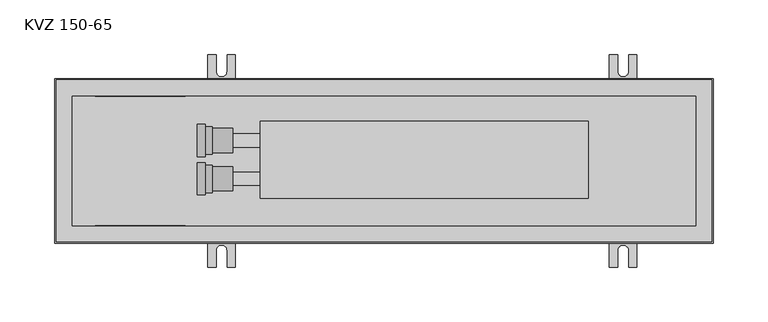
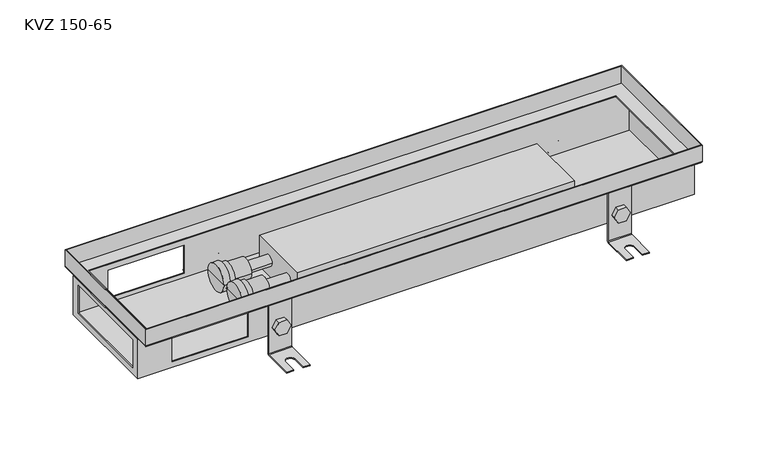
"""IFC4 building model written with IfcOpenShell, lengths in millimetres: proxy geometry, TECHNO_Конвектор встраиваемый_Power_KVZ_150_65-85-105 : KVZ 150-65."""

from ifc_helpers import new_model, si_unit, point, frame, frame_2d, origin, place, context, project, spatial, polyline, circle_curve, ellipse_curve, trimmed, segment, composite_curve, outline, extrude, faceted_brep, source, transform, mapped, element, save
from ifc_brep_helpers import plane_surface, cylinder_surface, revolved_surface, advanced_brep


def kvz_150_65_052aeace(model_context):
    return source(origin(), model_context, "Body", "SolidModel", [
        extrude(outline(composite_curve([segment(trimmed(circle_curve(frame_2d((-55.5, 518.0)), 7.5), [point((-55.5, 510.5))], [point((-55.5, 525.5))], False, "CARTESIAN"), True, "CONTINUOUS"), segment(trimmed(circle_curve(frame_2d((-55.5, 518.0)), 7.5), [point((-55.5, 525.5))], [point((-55.5, 510.5))], False, "CARTESIAN"), True, "CONTINUOUS")], self_intersect=False)), frame((0.0, 60.2, 0.0), z_axis=(0.0, 1.0, 0.0), x_axis=(0.0, 0.0, 1.0)), (0.0, 0.0, 1.0), 1.5),
        extrude(outline(polyline([(-55.5, 509.339746), (-63.0, 513.669873), (-63.0, 522.330127), (-55.5, 526.660254), (-48.0, 522.330127), (-48.0, 513.669873), (-55.5, 509.339746)])), frame((0.0, 62.9, 0.0), z_axis=(0.0, 1.0, 0.0), x_axis=(0.0, 0.0, 1.0)), (0.0, 0.0, 1.0), 5.1),
        advanced_brep(
        [(530.5, 62.9, -20.5), (530.5, 61.7, -20.5), (530.5, 61.7, -83.5), (530.5, 63.7, -85.5), (530.5, 96.7, -85.5), (530.5, 96.7, -84.3), (530.5, 63.7, -84.3), (530.5, 62.9, -83.5), (505.5, 62.9, -20.5), (505.5, 62.9, -83.5), (505.5, 63.7, -84.3), (505.5, 96.7, -84.3), (505.5, 96.7, -85.5), (505.5, 63.7, -85.5), (505.5, 61.7, -83.5), (505.5, 61.7, -20.5), (523.0, 96.7, -84.3), (523.0, 81.7, -84.3), (513.0, 81.7, -84.3), (513.0, 96.7, -84.3), (513.0, 96.7, -85.5), (523.0, 96.7, -85.5), (513.0, 81.7, -85.5), (523.0, 81.7, -85.5)],
        [
            (0, 1),
            (1, 2),
            (2, 3, circle_curve(frame((530.5, 63.7, -83.5), z_axis=(1.0, 0.0, 0.0), x_axis=(0.0, 1.0, 0.0)), 2.0)),
            (3, 4),
            (4, 5),
            (5, 6),
            (6, 7, circle_curve(frame((530.5, 63.7, -83.5), z_axis=(-1.0, 0.0, 0.0), x_axis=(0.0, 1.0, 0.0)), 0.8)),
            (7, 0),
            (8, 9),
            (9, 10, circle_curve(frame((505.5, 63.7, -83.5), z_axis=(1.0, 0.0, 0.0), x_axis=(0.0, 1.0, 0.0)), 0.8)),
            (10, 11),
            (11, 12),
            (12, 13),
            (13, 14, circle_curve(frame((505.5, 63.7, -83.5), z_axis=(-1.0, 0.0, 0.0), x_axis=(0.0, 1.0, 0.0)), 2.0)),
            (14, 15),
            (15, 8),
            (7, 9),
            (8, 0),
            (6, 10),
            (5, 16),
            (16, 17),
            (17, 18, circle_curve(frame((518.0, 81.7, -84.3), z_axis=(0.0, 0.0, -1.0), x_axis=(1.0, 0.0, 0.0)), 5.0)),
            (18, 19),
            (19, 11),
            (19, 20),
            (20, 12),
            (4, 21),
            (21, 16),
            (3, 13),
            (20, 22),
            (22, 23, circle_curve(frame((518.0, 81.7, -85.5), z_axis=(0.0, 0.0, 1.0), x_axis=(1.0, 0.0, 0.0)), 5.0)),
            (23, 21),
            (2, 14),
            (1, 15),
            (18, 22),
            (23, 17),
        ],
        [
            plane_surface(frame((530.5, 62.9, -20.5), z_axis=(1.0, 0.0, 0.0), x_axis=(0.0, 0.0, -1.0))),
            plane_surface(frame((505.5, 62.9, -20.5), z_axis=(-1.0, 0.0, 0.0), x_axis=(0.0, 0.0, 1.0))),
            plane_surface(frame((530.5, 62.9, -20.5), z_axis=(0.0, 1.0, 0.0), x_axis=(-1.0, 0.0, 0.0))),
            revolved_surface(polyline([(505.5, 64.5, -83.5), (530.5, 64.5, -83.5)]), (505.5, 63.7, -83.5), (-1.0, 0.0, 0.0)),
            plane_surface(frame((530.5, 63.7, -84.3), z_axis=(0.0, 0.0, 1.0), x_axis=(-1.0, 0.0, 0.0))),
            plane_surface(frame((530.5, 96.7, -84.3), z_axis=(0.0, 1.0, 0.0), x_axis=(-1.0, 0.0, 0.0))),
            plane_surface(frame((530.5, 96.7, -85.5), z_axis=(0.0, 0.0, -1.0), x_axis=(-1.0, 0.0, 0.0))),
            cylinder_surface(frame((505.5, 63.7, -83.5), z_axis=(1.0, 0.0, 0.0), x_axis=(0.0, 1.0, 0.0)), 2.0),
            plane_surface(frame((530.5, 61.7, -83.5), z_axis=(0.0, -1.0, 0.0), x_axis=(-1.0, 0.0, 0.0))),
            plane_surface(frame((530.5, 61.7, -20.5), z_axis=(0.0, 0.0, 1.0), x_axis=(-1.0, 0.0, 0.0))),
            plane_surface(frame((513.0, 81.7, -84.3), z_axis=(1.0, 0.0, 0.0), x_axis=(0.0, 0.0, -1.0))),
            plane_surface(frame((523.0, 96.7, -84.3), z_axis=(-1.0, 0.0, 0.0), x_axis=(0.0, 0.0, -1.0))),
            revolved_surface(polyline([(523.0, 81.7, -84.3), (523.0, 81.7, -85.5)]), (518.0, 81.7, -85.5), (0.0, 0.0, 1.0)),
        ],
        [
            (0, [[1, 2, 3, 4, 5, 6, 7, 8]]),
            (1, [[9, 10, 11, 12, 13, 14, 15, 16]]),
            (2, [[17, -9, 18, -8]]),
            (3, [[19, -10, -17, -7]]),
            (4, [[20, 21, 22, 23, 24, -11, -19, -6]]),
            (5, [[-24, 25, 26, -12]]),
            (5, [[27, 28, -20, -5]]),
            (6, [[29, -13, -26, 30, 31, 32, -27, -4]]),
            (7, [[33, -14, -29, -3]]),
            (8, [[34, -15, -33, -2]]),
            (9, [[-18, -16, -34, -1]]),
            (10, [[-30, -25, -23, 35]]),
            (11, [[-21, -28, -32, 36]]),
            (12, [[-22, -36, -31, -35]]),
        ],
    ),
        extrude(outline(composite_curve([segment(trimmed(circle_curve(frame_2d((-55.5, 518.0)), 7.5), [point((-55.5, 510.5))], [point((-55.5, 525.5))], False, "CARTESIAN"), True, "CONTINUOUS"), segment(trimmed(circle_curve(frame_2d((-55.5, 518.0)), 7.5), [point((-55.5, 525.5))], [point((-55.5, 510.5))], False, "CARTESIAN"), True, "CONTINUOUS")], self_intersect=False)), frame((0.0, -61.7, 0.0), z_axis=(0.0, 1.0, 0.0), x_axis=(0.0, 0.0, 1.0)), (0.0, 0.0, 1.0), 1.5),
        extrude(outline(polyline([(-55.5, 509.339746), (-63.0, 513.669873), (-63.0, 522.330127), (-55.5, 526.660254), (-48.0, 522.330127), (-48.0, 513.669873), (-55.5, 509.339746)])), frame((0.0, -68.0, 0.0), z_axis=(0.0, 1.0, 0.0), x_axis=(0.0, 0.0, 1.0)), (0.0, 0.0, 1.0), 5.1),
        advanced_brep(
        [(530.5, -62.9, -20.5), (530.5, -62.9, -83.5), (530.5, -63.7, -84.3), (530.5, -96.7, -84.3), (530.5, -96.7, -85.5), (530.5, -63.7, -85.5), (530.5, -61.7, -83.5), (530.5, -61.7, -20.5), (505.5, -62.9, -20.5), (505.5, -61.7, -20.5), (505.5, -61.7, -83.5), (505.5, -63.7, -85.5), (505.5, -96.7, -85.5), (505.5, -96.7, -84.3), (505.5, -63.7, -84.3), (505.5, -62.9, -83.5), (513.0, -96.7, -84.3), (513.0, -81.7, -84.3), (523.0, -81.7, -84.3), (523.0, -96.7, -84.3), (523.0, -96.7, -85.5), (513.0, -96.7, -85.5), (523.0, -81.7, -85.5), (513.0, -81.7, -85.5)],
        [
            (0, 1),
            (1, 2, circle_curve(frame((530.5, -63.7, -83.5), z_axis=(-1.0, 0.0, 0.0), x_axis=(0.0, -1.0, 0.0)), 0.8)),
            (2, 3),
            (3, 4),
            (4, 5),
            (5, 6, circle_curve(frame((530.5, -63.7, -83.5), z_axis=(1.0, 0.0, 0.0), x_axis=(0.0, -1.0, 0.0)), 2.0)),
            (6, 7),
            (7, 0),
            (8, 9),
            (9, 10),
            (10, 11, circle_curve(frame((505.5, -63.7, -83.5), z_axis=(-1.0, 0.0, 0.0), x_axis=(0.0, -1.0, 0.0)), 2.0)),
            (11, 12),
            (12, 13),
            (13, 14),
            (14, 15, circle_curve(frame((505.5, -63.7, -83.5), z_axis=(1.0, 0.0, 0.0), x_axis=(0.0, -1.0, 0.0)), 0.8)),
            (15, 8),
            (0, 8),
            (15, 1),
            (14, 2),
            (13, 16),
            (16, 17),
            (17, 18, circle_curve(frame((518.0, -81.7, -84.3), z_axis=(0.0, 0.0, -1.0), x_axis=(1.0, 0.0, 0.0)), 5.0)),
            (18, 19),
            (19, 3),
            (19, 20),
            (20, 4),
            (12, 21),
            (21, 16),
            (20, 22),
            (22, 23, circle_curve(frame((518.0, -81.7, -85.5), z_axis=(0.0, 0.0, 1.0), x_axis=(1.0, 0.0, 0.0)), 5.0)),
            (23, 21),
            (11, 5),
            (10, 6),
            (9, 7),
            (23, 17),
            (18, 22),
        ],
        [
            plane_surface(frame((530.5, -62.9, -20.5), z_axis=(1.0, 0.0, 0.0), x_axis=(0.0, 0.0, -1.0))),
            plane_surface(frame((505.5, -62.9, -20.5), z_axis=(-1.0, 0.0, 0.0), x_axis=(0.0, 0.0, 1.0))),
            plane_surface(frame((530.5, -62.9, -20.5), z_axis=(0.0, -1.0, 0.0), x_axis=(-1.0, 0.0, 0.0))),
            revolved_surface(polyline([(505.5, -64.5, -83.5), (530.5, -64.5, -83.5)]), (505.5, -63.7, -83.5), (-1.0, 0.0, 0.0)),
            plane_surface(frame((530.5, -63.7, -84.3), z_axis=(0.0, 0.0, 1.0), x_axis=(-1.0, 0.0, 0.0))),
            plane_surface(frame((530.5, -96.7, -84.3), z_axis=(0.0, -1.0, 0.0), x_axis=(-1.0, 0.0, 0.0))),
            plane_surface(frame((530.5, -96.7, -85.5), z_axis=(0.0, 0.0, -1.0), x_axis=(-1.0, 0.0, 0.0))),
            cylinder_surface(frame((505.5, -63.7, -83.5), z_axis=(1.0, 0.0, 0.0), x_axis=(0.0, -1.0, 0.0)), 2.0),
            plane_surface(frame((530.5, -61.7, -83.5), z_axis=(0.0, 1.0, 0.0), x_axis=(-1.0, 0.0, 0.0))),
            plane_surface(frame((530.5, -61.7, -20.5), z_axis=(0.0, 0.0, 1.0), x_axis=(-1.0, 0.0, 0.0))),
            plane_surface(frame((513.0, -81.7, -84.3), z_axis=(1.0, 0.0, 0.0), x_axis=(0.0, 0.0, -1.0))),
            plane_surface(frame((523.0, -96.7, -84.3), z_axis=(-1.0, 0.0, 0.0), x_axis=(0.0, 0.0, -1.0))),
            revolved_surface(polyline([(523.0, -81.7, -84.3), (523.0, -81.7, -85.5)]), (518.0, -81.7, -85.5), (0.0, 0.0, 1.0)),
        ],
        [
            (0, [[1, 2, 3, 4, 5, 6, 7, 8]]),
            (1, [[9, 10, 11, 12, 13, 14, 15, 16]]),
            (2, [[-1, 17, -16, 18]]),
            (3, [[-2, -18, -15, 19]]),
            (4, [[-3, -19, -14, 20, 21, 22, 23, 24]]),
            (5, [[-4, -24, 25, 26]]),
            (5, [[-13, 27, 28, -20]]),
            (6, [[-5, -26, 29, 30, 31, -27, -12, 32]]),
            (7, [[-6, -32, -11, 33]]),
            (8, [[-7, -33, -10, 34]]),
            (9, [[-8, -34, -9, -17]]),
            (10, [[35, -21, -28, -31]]),
            (11, [[36, -29, -25, -23]]),
            (12, [[-35, -30, -36, -22]]),
        ],
    ),
        extrude(outline(composite_curve([segment(trimmed(circle_curve(frame_2d((-55.5, 152.0)), 7.5), [point((-55.5, 144.5))], [point((-55.5, 159.5))], False, "CARTESIAN"), True, "CONTINUOUS"), segment(trimmed(circle_curve(frame_2d((-55.5, 152.0)), 7.5), [point((-55.5, 159.5))], [point((-55.5, 144.5))], False, "CARTESIAN"), True, "CONTINUOUS")], self_intersect=False)), frame((0.0, 60.2, 0.0), z_axis=(0.0, 1.0, 0.0), x_axis=(0.0, 0.0, 1.0)), (0.0, 0.0, 1.0), 1.5),
        extrude(outline(polyline([(-55.5, 143.339746), (-63.0, 147.669873), (-63.0, 156.330127), (-55.5, 160.660254), (-48.0, 156.330127), (-48.0, 147.669873), (-55.5, 143.339746)])), frame((0.0, 62.9, 0.0), z_axis=(0.0, 1.0, 0.0), x_axis=(0.0, 0.0, 1.0)), (0.0, 0.0, 1.0), 5.1),
        advanced_brep(
        [(164.5, 62.9, -20.5), (164.5, 61.7, -20.5), (164.5, 61.7, -83.5), (164.5, 63.7, -85.5), (164.5, 96.7, -85.5), (164.5, 96.7, -84.3), (164.5, 63.7, -84.3), (164.5, 62.9, -83.5), (139.5, 62.9, -20.5), (139.5, 62.9, -83.5), (139.5, 63.7, -84.3), (139.5, 96.7, -84.3), (139.5, 96.7, -85.5), (139.5, 63.7, -85.5), (139.5, 61.7, -83.5), (139.5, 61.7, -20.5), (157.0, 96.7, -84.3), (157.0, 81.7, -84.3), (147.0, 81.7, -84.3), (147.0, 96.7, -84.3), (147.0, 96.7, -85.5), (157.0, 96.7, -85.5), (147.0, 81.7, -85.5), (157.0, 81.7, -85.5)],
        [
            (0, 1),
            (1, 2),
            (2, 3, circle_curve(frame((164.5, 63.7, -83.5), z_axis=(1.0, 0.0, 0.0), x_axis=(0.0, 1.0, 0.0)), 2.0)),
            (3, 4),
            (4, 5),
            (5, 6),
            (6, 7, circle_curve(frame((164.5, 63.7, -83.5), z_axis=(-1.0, 0.0, 0.0), x_axis=(0.0, 1.0, 0.0)), 0.8)),
            (7, 0),
            (8, 9),
            (9, 10, circle_curve(frame((139.5, 63.7, -83.5), z_axis=(1.0, 0.0, 0.0), x_axis=(0.0, 1.0, 0.0)), 0.8)),
            (10, 11),
            (11, 12),
            (12, 13),
            (13, 14, circle_curve(frame((139.5, 63.7, -83.5), z_axis=(-1.0, 0.0, 0.0), x_axis=(0.0, 1.0, 0.0)), 2.0)),
            (14, 15),
            (15, 8),
            (7, 9),
            (8, 0),
            (6, 10),
            (5, 16),
            (16, 17),
            (17, 18, circle_curve(frame((152.0, 81.7, -84.3), z_axis=(0.0, 0.0, -1.0), x_axis=(1.0, 0.0, 0.0)), 5.0)),
            (18, 19),
            (19, 11),
            (19, 20),
            (20, 12),
            (4, 21),
            (21, 16),
            (3, 13),
            (20, 22),
            (22, 23, circle_curve(frame((152.0, 81.7, -85.5), z_axis=(0.0, 0.0, 1.0), x_axis=(1.0, 0.0, 0.0)), 5.0)),
            (23, 21),
            (2, 14),
            (1, 15),
            (18, 22),
            (23, 17),
        ],
        [
            plane_surface(frame((164.5, 62.9, -20.5), z_axis=(1.0, 0.0, 0.0), x_axis=(0.0, 0.0, -1.0))),
            plane_surface(frame((139.5, 62.9, -20.5), z_axis=(-1.0, 0.0, 0.0), x_axis=(0.0, 0.0, 1.0))),
            plane_surface(frame((164.5, 62.9, -20.5), z_axis=(0.0, 1.0, 0.0), x_axis=(-1.0, 0.0, 0.0))),
            revolved_surface(polyline([(139.5, 64.5, -83.5), (164.5, 64.5, -83.5)]), (139.5, 63.7, -83.5), (-1.0, 0.0, 0.0)),
            plane_surface(frame((164.5, 63.7, -84.3), z_axis=(0.0, 0.0, 1.0), x_axis=(-1.0, 0.0, 0.0))),
            plane_surface(frame((164.5, 96.7, -84.3), z_axis=(0.0, 1.0, 0.0), x_axis=(-1.0, 0.0, 0.0))),
            plane_surface(frame((164.5, 96.7, -85.5), z_axis=(0.0, 0.0, -1.0), x_axis=(-1.0, 0.0, 0.0))),
            cylinder_surface(frame((139.5, 63.7, -83.5), z_axis=(1.0, 0.0, 0.0), x_axis=(0.0, 1.0, 0.0)), 2.0),
            plane_surface(frame((164.5, 61.7, -83.5), z_axis=(0.0, -1.0, 0.0), x_axis=(-1.0, 0.0, 0.0))),
            plane_surface(frame((164.5, 61.7, -20.5), z_axis=(0.0, 0.0, 1.0), x_axis=(-1.0, 0.0, 0.0))),
            plane_surface(frame((147.0, 81.7, -84.3), z_axis=(1.0, 0.0, 0.0), x_axis=(0.0, 0.0, -1.0))),
            plane_surface(frame((157.0, 96.7, -84.3), z_axis=(-1.0, 0.0, 0.0), x_axis=(0.0, 0.0, -1.0))),
            revolved_surface(polyline([(157.0, 81.7, -84.3), (157.0, 81.7, -85.5)]), (152.0, 81.7, -85.5), (0.0, 0.0, 1.0)),
        ],
        [
            (0, [[1, 2, 3, 4, 5, 6, 7, 8]]),
            (1, [[9, 10, 11, 12, 13, 14, 15, 16]]),
            (2, [[17, -9, 18, -8]]),
            (3, [[19, -10, -17, -7]]),
            (4, [[20, 21, 22, 23, 24, -11, -19, -6]]),
            (5, [[-24, 25, 26, -12]]),
            (5, [[27, 28, -20, -5]]),
            (6, [[29, -13, -26, 30, 31, 32, -27, -4]]),
            (7, [[33, -14, -29, -3]]),
            (8, [[34, -15, -33, -2]]),
            (9, [[-18, -16, -34, -1]]),
            (10, [[-30, -25, -23, 35]]),
            (11, [[-21, -28, -32, 36]]),
            (12, [[-22, -36, -31, -35]]),
        ],
    ),
        extrude(outline(composite_curve([segment(trimmed(circle_curve(frame_2d((-55.5, 152.0)), 7.5), [point((-55.5, 144.5))], [point((-55.5, 159.5))], False, "CARTESIAN"), True, "CONTINUOUS"), segment(trimmed(circle_curve(frame_2d((-55.5, 152.0)), 7.5), [point((-55.5, 159.5))], [point((-55.5, 144.5))], False, "CARTESIAN"), True, "CONTINUOUS")], self_intersect=False)), frame((0.0, -61.7, 0.0), z_axis=(0.0, 1.0, 0.0), x_axis=(0.0, 0.0, 1.0)), (0.0, 0.0, 1.0), 1.5),
        extrude(outline(polyline([(-55.5, 143.339746), (-63.0, 147.669873), (-63.0, 156.330127), (-55.5, 160.660254), (-48.0, 156.330127), (-48.0, 147.669873), (-55.5, 143.339746)])), frame((0.0, -68.0, 0.0), z_axis=(0.0, 1.0, 0.0), x_axis=(0.0, 0.0, 1.0)), (0.0, 0.0, 1.0), 5.1),
        advanced_brep(
        [(164.5, -62.9, -20.5), (164.5, -62.9, -83.5), (164.5, -63.7, -84.3), (164.5, -96.7, -84.3), (164.5, -96.7, -85.5), (164.5, -63.7, -85.5), (164.5, -61.7, -83.5), (164.5, -61.7, -20.5), (139.5, -62.9, -20.5), (139.5, -61.7, -20.5), (139.5, -61.7, -83.5), (139.5, -63.7, -85.5), (139.5, -96.7, -85.5), (139.5, -96.7, -84.3), (139.5, -63.7, -84.3), (139.5, -62.9, -83.5), (147.0, -96.7, -84.3), (147.0, -81.7, -84.3), (157.0, -81.7, -84.3), (157.0, -96.7, -84.3), (157.0, -96.7, -85.5), (147.0, -96.7, -85.5), (157.0, -81.7, -85.5), (147.0, -81.7, -85.5)],
        [
            (0, 1),
            (1, 2, circle_curve(frame((164.5, -63.7, -83.5), z_axis=(-1.0, 0.0, 0.0), x_axis=(0.0, -1.0, 0.0)), 0.8)),
            (2, 3),
            (3, 4),
            (4, 5),
            (5, 6, circle_curve(frame((164.5, -63.7, -83.5), z_axis=(1.0, 0.0, 0.0), x_axis=(0.0, -1.0, 0.0)), 2.0)),
            (6, 7),
            (7, 0),
            (8, 9),
            (9, 10),
            (10, 11, circle_curve(frame((139.5, -63.7, -83.5), z_axis=(-1.0, 0.0, 0.0), x_axis=(0.0, -1.0, 0.0)), 2.0)),
            (11, 12),
            (12, 13),
            (13, 14),
            (14, 15, circle_curve(frame((139.5, -63.7, -83.5), z_axis=(1.0, 0.0, 0.0), x_axis=(0.0, -1.0, 0.0)), 0.8)),
            (15, 8),
            (0, 8),
            (15, 1),
            (14, 2),
            (13, 16),
            (16, 17),
            (17, 18, circle_curve(frame((152.0, -81.7, -84.3), z_axis=(0.0, 0.0, -1.0), x_axis=(1.0, 0.0, 0.0)), 5.0)),
            (18, 19),
            (19, 3),
            (19, 20),
            (20, 4),
            (12, 21),
            (21, 16),
            (20, 22),
            (22, 23, circle_curve(frame((152.0, -81.7, -85.5), z_axis=(0.0, 0.0, 1.0), x_axis=(1.0, 0.0, 0.0)), 5.0)),
            (23, 21),
            (11, 5),
            (10, 6),
            (9, 7),
            (23, 17),
            (18, 22),
        ],
        [
            plane_surface(frame((164.5, -62.9, -20.5), z_axis=(1.0, 0.0, 0.0), x_axis=(0.0, 0.0, -1.0))),
            plane_surface(frame((139.5, -62.9, -20.5), z_axis=(-1.0, 0.0, 0.0), x_axis=(0.0, 0.0, 1.0))),
            plane_surface(frame((164.5, -62.9, -20.5), z_axis=(0.0, -1.0, 0.0), x_axis=(-1.0, 0.0, 0.0))),
            revolved_surface(polyline([(139.5, -64.5, -83.5), (164.5, -64.5, -83.5)]), (139.5, -63.7, -83.5), (-1.0, 0.0, 0.0)),
            plane_surface(frame((164.5, -63.7, -84.3), z_axis=(0.0, 0.0, 1.0), x_axis=(-1.0, 0.0, 0.0))),
            plane_surface(frame((164.5, -96.7, -84.3), z_axis=(0.0, -1.0, 0.0), x_axis=(-1.0, 0.0, 0.0))),
            plane_surface(frame((164.5, -96.7, -85.5), z_axis=(0.0, 0.0, -1.0), x_axis=(-1.0, 0.0, 0.0))),
            cylinder_surface(frame((139.5, -63.7, -83.5), z_axis=(1.0, 0.0, 0.0), x_axis=(0.0, -1.0, 0.0)), 2.0),
            plane_surface(frame((164.5, -61.7, -83.5), z_axis=(0.0, 1.0, 0.0), x_axis=(-1.0, 0.0, 0.0))),
            plane_surface(frame((164.5, -61.7, -20.5), z_axis=(0.0, 0.0, 1.0), x_axis=(-1.0, 0.0, 0.0))),
            plane_surface(frame((147.0, -81.7, -84.3), z_axis=(1.0, 0.0, 0.0), x_axis=(0.0, 0.0, -1.0))),
            plane_surface(frame((157.0, -96.7, -84.3), z_axis=(-1.0, 0.0, 0.0), x_axis=(0.0, 0.0, -1.0))),
            revolved_surface(polyline([(157.0, -81.7, -84.3), (157.0, -81.7, -85.5)]), (152.0, -81.7, -85.5), (0.0, 0.0, 1.0)),
        ],
        [
            (0, [[1, 2, 3, 4, 5, 6, 7, 8]]),
            (1, [[9, 10, 11, 12, 13, 14, 15, 16]]),
            (2, [[-1, 17, -16, 18]]),
            (3, [[-2, -18, -15, 19]]),
            (4, [[-3, -19, -14, 20, 21, 22, 23, 24]]),
            (5, [[-4, -24, 25, 26]]),
            (5, [[-13, 27, 28, -20]]),
            (6, [[-5, -26, 29, 30, 31, -27, -12, 32]]),
            (7, [[-6, -32, -11, 33]]),
            (8, [[-7, -33, -10, 34]]),
            (9, [[-8, -34, -9, -17]]),
            (10, [[35, -21, -28, -31]]),
            (11, [[36, -29, -25, -23]]),
            (12, [[-35, -30, -36, -22]]),
        ],
    ),
        extrude(outline(composite_curve([segment(trimmed(circle_curve(frame_2d((-16.3, -43.3)), 6.0), [point((-22.3, -43.3))], [point((-10.3, -43.3))], False, "CARTESIAN"), True, "CONTINUOUS"), segment(trimmed(circle_curve(frame_2d((-16.3, -43.3)), 6.0), [point((-10.3, -43.3))], [point((-22.3, -43.3))], False, "CARTESIAN"), True, "CONTINUOUS")], self_intersect=False)), frame((162.0, 0.0, 0.0), z_axis=(1.0, 0.0, 0.0), x_axis=(0.0, 1.0, 0.0)), (0.0, 0.0, 1.0), 25.0),
        advanced_brep(
        [(162.0, 7.7, -43.3), (162.0, 29.7, -43.3), (162.0, 18.7, -43.3), (143.5, 7.7, -43.3), (143.5, 29.7, -43.3), (143.5, 6.2, -43.3), (143.5, 31.2, -43.3), (137.0, 6.2, -43.3), (137.0, 31.2, -43.3), (137.0, 4.0, -43.3), (137.0, 33.4, -43.3), (130.0, 4.0, -43.3), (130.0, 33.4, -43.3), (130.0, 18.7, -43.3)],
        [
            (0, 1, circle_curve(frame((162.0, 18.7, -43.3), z_axis=(1.0, 0.0, 0.0), x_axis=(0.0, 1.0, 0.0)), 11.0)),
            (1, 2),
            (2, 0),
            (1, 0, circle_curve(frame((162.0, 18.7, -43.3), z_axis=(1.0, 0.0, 0.0), x_axis=(0.0, 1.0, 0.0)), 11.0)),
            (3, 4, circle_curve(frame((143.5, 18.7, -43.3), z_axis=(1.0, 0.0, 0.0), x_axis=(0.0, 1.0, 0.0)), 11.0)),
            (4, 1),
            (0, 3),
            (4, 3, circle_curve(frame((143.5, 18.7, -43.3), z_axis=(1.0, 0.0, 0.0), x_axis=(0.0, 1.0, 0.0)), 11.0)),
            (5, 6, circle_curve(frame((143.5, 18.7, -43.3), z_axis=(1.0, 0.0, 0.0), x_axis=(0.0, 1.0, 0.0)), 12.5)),
            (6, 4),
            (3, 5),
            (6, 5, circle_curve(frame((143.5, 18.7, -43.3), z_axis=(1.0, 0.0, 0.0), x_axis=(0.0, 1.0, 0.0)), 12.5)),
            (7, 8, circle_curve(frame((137.0, 18.7, -43.3), z_axis=(1.0, 0.0, 0.0), x_axis=(0.0, 1.0, 0.0)), 12.5)),
            (8, 6),
            (5, 7),
            (8, 7, circle_curve(frame((137.0, 18.7, -43.3), z_axis=(1.0, 0.0, 0.0), x_axis=(0.0, 1.0, 0.0)), 12.5)),
            (9, 10, circle_curve(frame((137.0, 18.7, -43.3), z_axis=(1.0, 0.0, 0.0), x_axis=(0.0, 1.0, 0.0)), 14.7)),
            (10, 8),
            (7, 9),
            (10, 9, circle_curve(frame((137.0, 18.7, -43.3), z_axis=(1.0, 0.0, 0.0), x_axis=(0.0, 1.0, 0.0)), 14.7)),
            (11, 12, circle_curve(frame((130.0, 18.7, -43.3), z_axis=(1.0, 0.0, 0.0), x_axis=(0.0, 1.0, 0.0)), 14.7)),
            (12, 10),
            (9, 11),
            (12, 11, circle_curve(frame((130.0, 18.7, -43.3), z_axis=(1.0, 0.0, 0.0), x_axis=(0.0, 1.0, 0.0)), 14.7)),
            (13, 12),
            (11, 13),
        ],
        [
            plane_surface(frame((162.0, 18.7, -43.3), z_axis=(1.0, 0.0, 0.0), x_axis=(0.0, 1.0, 0.0))),
            cylinder_surface(frame((120.0, 18.7, -43.3), z_axis=(-1.0, 0.0, 0.0), x_axis=(0.0, 1.0, 0.0)), 11.0),
            plane_surface(frame((143.5, 18.7, -43.3), z_axis=(1.0, 0.0, 0.0), x_axis=(0.0, 1.0, 0.0))),
            cylinder_surface(frame((120.0, 18.7, -43.3), z_axis=(-1.0, 0.0, 0.0), x_axis=(0.0, 1.0, 0.0)), 12.5),
            plane_surface(frame((137.0, 18.7, -43.3), z_axis=(1.0, 0.0, 0.0), x_axis=(0.0, 1.0, 0.0))),
            cylinder_surface(frame((120.0, 18.7, -43.3), z_axis=(-1.0, 0.0, 0.0), x_axis=(0.0, 1.0, 0.0)), 14.7),
            plane_surface(frame((130.0, 18.7, -43.3), z_axis=(-1.0, 0.0, 0.0), x_axis=(0.0, 1.0, 0.0))),
        ],
        [
            (0, [[1, 2, 3]]),
            (0, [[4, -3, -2]]),
            (1, [[5, 6, -1, 7]]),
            (1, [[8, -7, -4, -6]]),
            (2, [[9, 10, -5, 11]]),
            (2, [[12, -11, -8, -10]]),
            (3, [[13, 14, -9, 15]]),
            (3, [[16, -15, -12, -14]]),
            (4, [[17, 18, -13, 19]]),
            (4, [[20, -19, -16, -18]]),
            (5, [[21, 22, -17, 23]]),
            (5, [[24, -23, -20, -22]]),
            (6, [[25, -21, 26]]),
            (6, [[-26, -24, -25]]),
        ],
    ),
        advanced_brep(
        [(162.0, -27.3, -43.3), (162.0, -5.3, -43.3), (162.0, -16.3, -43.3), (143.5, -27.3, -43.3), (143.5, -5.3, -43.3), (143.5, -28.8, -43.3), (143.5, -3.8, -43.3), (137.0, -28.8, -43.3), (137.0, -3.8, -43.3), (137.0, -31.0, -43.3), (137.0, -1.6, -43.3), (130.0, -31.0, -43.3), (130.0, -1.6, -43.3), (130.0, -16.3, -43.3)],
        [
            (0, 1, circle_curve(frame((162.0, -16.3, -43.3), z_axis=(1.0, 0.0, 0.0), x_axis=(0.0, 1.0, 0.0)), 11.0)),
            (1, 2),
            (2, 0),
            (1, 0, circle_curve(frame((162.0, -16.3, -43.3), z_axis=(1.0, 0.0, 0.0), x_axis=(0.0, 1.0, 0.0)), 11.0)),
            (3, 4, circle_curve(frame((143.5, -16.3, -43.3), z_axis=(1.0, 0.0, 0.0), x_axis=(0.0, 1.0, 0.0)), 11.0)),
            (4, 1),
            (0, 3),
            (4, 3, circle_curve(frame((143.5, -16.3, -43.3), z_axis=(1.0, 0.0, 0.0), x_axis=(0.0, 1.0, 0.0)), 11.0)),
            (5, 6, circle_curve(frame((143.5, -16.3, -43.3), z_axis=(1.0, 0.0, 0.0), x_axis=(0.0, 1.0, 0.0)), 12.5)),
            (6, 4),
            (3, 5),
            (6, 5, circle_curve(frame((143.5, -16.3, -43.3), z_axis=(1.0, 0.0, 0.0), x_axis=(0.0, 1.0, 0.0)), 12.5)),
            (7, 8, circle_curve(frame((137.0, -16.3, -43.3), z_axis=(1.0, 0.0, 0.0), x_axis=(0.0, 1.0, 0.0)), 12.5)),
            (8, 6),
            (5, 7),
            (8, 7, circle_curve(frame((137.0, -16.3, -43.3), z_axis=(1.0, 0.0, 0.0), x_axis=(0.0, 1.0, 0.0)), 12.5)),
            (9, 10, circle_curve(frame((137.0, -16.3, -43.3), z_axis=(1.0, 0.0, 0.0), x_axis=(0.0, 1.0, 0.0)), 14.7)),
            (10, 8),
            (7, 9),
            (10, 9, circle_curve(frame((137.0, -16.3, -43.3), z_axis=(1.0, 0.0, 0.0), x_axis=(0.0, 1.0, 0.0)), 14.7)),
            (11, 12, circle_curve(frame((130.0, -16.3, -43.3), z_axis=(1.0, 0.0, 0.0), x_axis=(0.0, 1.0, 0.0)), 14.7)),
            (12, 10),
            (9, 11),
            (12, 11, circle_curve(frame((130.0, -16.3, -43.3), z_axis=(1.0, 0.0, 0.0), x_axis=(0.0, 1.0, 0.0)), 14.7)),
            (13, 12),
            (11, 13),
        ],
        [
            plane_surface(frame((162.0, -16.3, -43.3), z_axis=(1.0, 0.0, 0.0), x_axis=(0.0, 1.0, 0.0))),
            cylinder_surface(frame((120.0, -16.3, -43.3), z_axis=(-1.0, 0.0, 0.0), x_axis=(0.0, 1.0, 0.0)), 11.0),
            plane_surface(frame((143.5, -16.3, -43.3), z_axis=(1.0, 0.0, 0.0), x_axis=(0.0, 1.0, 0.0))),
            cylinder_surface(frame((120.0, -16.3, -43.3), z_axis=(-1.0, 0.0, 0.0), x_axis=(0.0, 1.0, 0.0)), 12.5),
            plane_surface(frame((137.0, -16.3, -43.3), z_axis=(1.0, 0.0, 0.0), x_axis=(0.0, 1.0, 0.0))),
            cylinder_surface(frame((120.0, -16.3, -43.3), z_axis=(-1.0, 0.0, 0.0), x_axis=(0.0, 1.0, 0.0)), 14.7),
            plane_surface(frame((130.0, -16.3, -43.3), z_axis=(-1.0, 0.0, 0.0), x_axis=(0.0, 1.0, 0.0))),
        ],
        [
            (0, [[1, 2, 3]]),
            (0, [[4, -3, -2]]),
            (1, [[5, 6, -1, 7]]),
            (1, [[8, -7, -4, -6]]),
            (2, [[9, 10, -5, 11]]),
            (2, [[12, -11, -8, -10]]),
            (3, [[13, 14, -9, 15]]),
            (3, [[16, -15, -12, -14]]),
            (4, [[17, 18, -13, 19]]),
            (4, [[20, -19, -16, -18]]),
            (5, [[21, 22, -17, 23]]),
            (5, [[24, -23, -20, -22]]),
            (6, [[25, -21, 26]]),
            (6, [[-26, -24, -25]]),
        ],
    ),
        extrude(outline(composite_curve([segment(trimmed(circle_curve(frame_2d((18.7, -43.3)), 6.0), [point((12.7, -43.3))], [point((24.7, -43.3))], False, "CARTESIAN"), True, "CONTINUOUS"), segment(trimmed(circle_curve(frame_2d((18.7, -43.3)), 6.0), [point((24.7, -43.3))], [point((12.7, -43.3))], False, "CARTESIAN"), True, "CONTINUOUS")], self_intersect=False)), frame((162.0, 0.0, 0.0), z_axis=(1.0, 0.0, 0.0), x_axis=(0.0, 1.0, 0.0)), (0.0, 0.0, 1.0), 25.0),
        extrude(outline(polyline([(486.0, 36.2), (486.0, -33.8), (187.0, -33.8), (187.0, 36.2), (486.0, 36.2)])), frame((0.0, 0.0, -60.8), z_axis=(0.0, 0.0, 1.0), x_axis=(1.0, 0.0, 0.0)), (0.0, 0.0, 1.0), 35.0),
        faceted_brep([(598.8, -59.0, -63.8), (598.8, 59.0, -63.8), (1.2, 59.0, -63.8), (1.2, -59.0, -63.8), (0.0, -60.2, -65.0), (0.0, 60.2, -65.0), (600.0, 60.2, -65.0), (600.0, -60.2, -65.0), (600.0, -60.2, -20.5), (0.0, -60.2, -20.5), (37.0, -60.2, -26.8), (119.0, -60.2, -26.8), (119.0, -60.2, -58.8), (37.0, -60.2, -58.8), (600.0, 60.2, -20.5), (0.0, 60.2, -20.5), (119.0, 60.2, -26.8), (37.0, 60.2, -26.8), (37.0, 60.2, -58.8), (119.0, 60.2, -58.8), (0.0, 51.0, -58.0), (0.0, 51.0, -26.0), (0.0, -51.0, -26.0), (0.0, -51.0, -58.0), (598.8, -59.0, -20.5), (598.8, 59.0, -20.5), (1.2, -59.0, -20.5), (119.0, -59.0, -26.8), (37.0, -59.0, -26.8), (37.0, -59.0, -58.8), (119.0, -59.0, -58.8), (1.2, 59.0, -20.5), (1.2, 51.0, -26.0), (1.2, 51.0, -58.0), (1.2, -51.0, -58.0), (1.2, -51.0, -26.0), (37.0, 59.0, -26.8), (119.0, 59.0, -26.8), (119.0, 59.0, -58.8), (37.0, 59.0, -58.8)], [[[0, 1, 2, 3]], [[4, 5, 6, 7]], [[4, 7, 8, 9], [10, 11, 12, 13]], [[7, 6, 14, 8]], [[6, 5, 15, 14], [16, 17, 18, 19]], [[5, 4, 9, 15], [20, 21, 22, 23]], [[24, 25, 1, 0]], [[26, 24, 0, 3], [27, 28, 29, 30]], [[31, 26, 3, 2], [32, 33, 34, 35]], [[25, 31, 2, 1], [36, 37, 38, 39]], [[8, 14, 15, 9], [25, 24, 26, 31]], [[27, 11, 10, 28]], [[16, 37, 36, 17]], [[28, 10, 13, 29]], [[17, 36, 39, 18]], [[29, 13, 12, 30]], [[18, 39, 38, 19]], [[11, 27, 30, 12]], [[37, 16, 19, 38]], [[20, 33, 32, 21]], [[21, 32, 35, 22]], [[22, 35, 34, 23]], [[33, 20, 23, 34]]]),
        advanced_brep(
        [(584.0, 59.0, -19.3), (584.0, 59.0, -20.5), (584.0, -59.0, -20.5), (584.0, -59.0, -19.3), (598.8, 73.8, 0.0), (598.8, 73.8, -19.3), (598.8, -73.8, -19.3), (598.8, -73.8, 0.0), (600.0, 75.0, -18.5), (600.0, 75.0, 0.0), (600.0, -75.0, 0.0), (600.0, -75.0, -18.5), (16.0, -59.0, -20.5), (16.0, -59.0, -19.3), (1.2, -73.8, -19.3), (1.2, -73.8, 0.0), (0.0, -75.0, 0.0), (0.0, -75.0, -18.5), (16.0, 59.0, -20.5), (16.0, 59.0, -19.3), (1.2, 73.8, -19.3), (1.2, 73.8, 0.0), (0.0, 75.0, 0.0), (0.0, 75.0, -18.5), (598.0, -73.0, -20.5), (2.0, -73.0, -20.5), (2.0, 73.0, -20.5), (598.0, 73.0, -20.5)],
        [
            (0, 1),
            (1, 2),
            (2, 3),
            (3, 0),
            (4, 5),
            (5, 6),
            (6, 7),
            (7, 4),
            (8, 9),
            (9, 10),
            (10, 11),
            (11, 8),
            (2, 12),
            (12, 13),
            (13, 3),
            (6, 14),
            (14, 15),
            (15, 7),
            (10, 16),
            (16, 17),
            (17, 11),
            (12, 18),
            (18, 19),
            (19, 13),
            (14, 20),
            (20, 21),
            (21, 15),
            (16, 22),
            (22, 23),
            (23, 17),
            (24, 25),
            (25, 26),
            (26, 27),
            (27, 24),
            (1, 18),
            (0, 19),
            (5, 20),
            (4, 21),
            (9, 22),
            (8, 23),
            (27, 8, ellipse_curve(frame((598.0, 73.0, -18.5), z_axis=(0.7071067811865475, -0.7071067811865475, 0.0), x_axis=(0.7071067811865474, 0.7071067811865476, 0.0)), 2.8284271, 2.0)),
            (11, 24, ellipse_curve(frame((598.0, -73.0, -18.5), z_axis=(0.7071067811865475, 0.7071067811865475, 0.0), x_axis=(-0.7071067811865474, 0.7071067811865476, 0.0)), 2.8284271, 2.0)),
            (17, 25, ellipse_curve(frame((2.0, -73.0, -18.5), z_axis=(0.7071067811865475, -0.7071067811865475, 0.0), x_axis=(0.7071067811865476, 0.7071067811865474, 0.0)), 2.8284271, 2.0)),
            (23, 26, ellipse_curve(frame((2.0, 73.0, -18.5), z_axis=(-0.7071067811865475, -0.7071067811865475, 0.0), x_axis=(0.7071067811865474, -0.7071067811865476, 0.0)), 2.8284271, 2.0)),
        ],
        [
            plane_surface(frame((584.0, 59.0, -20.5), z_axis=(-1.0, 0.0, 0.0), x_axis=(0.0, -1.0, 0.0))),
            plane_surface(frame((598.8, 73.8, -19.3), z_axis=(-1.0, 0.0, 0.0), x_axis=(0.0, -1.0, 0.0))),
            plane_surface(frame((600.0, 75.0, 0.0), z_axis=(1.0, 0.0, 0.0), x_axis=(0.0, -1.0, 0.0))),
            plane_surface(frame((584.0, -59.0, -20.5), z_axis=(0.0, 1.0, 0.0), x_axis=(-1.0, 0.0, 0.0))),
            plane_surface(frame((598.8, -73.8, -19.3), z_axis=(0.0, 1.0, 0.0), x_axis=(-1.0, 0.0, 0.0))),
            plane_surface(frame((600.0, -75.0, 0.0), z_axis=(0.0, -1.0, 0.0), x_axis=(-1.0, 0.0, 0.0))),
            plane_surface(frame((16.0, -59.0, -20.5), z_axis=(1.0, 0.0, 0.0), x_axis=(0.0, 1.0, 0.0))),
            plane_surface(frame((1.2, -73.8, -19.3), z_axis=(1.0, 0.0, 0.0), x_axis=(0.0, 1.0, 0.0))),
            plane_surface(frame((0.0, -75.0, 0.0), z_axis=(-1.0, 0.0, 0.0), x_axis=(0.0, 1.0, 0.0))),
            plane_surface(frame((2.0, 73.0, -20.5), z_axis=(0.0, 0.0, -1.0), x_axis=(1.0, 0.0, 0.0))),
            plane_surface(frame((16.0, 59.0, -20.5), z_axis=(0.0, -1.0, 0.0), x_axis=(1.0, 0.0, 0.0))),
            plane_surface(frame((16.0, 59.0, -19.3), z_axis=(0.0, 0.0, 1.0), x_axis=(1.0, 0.0, 0.0))),
            plane_surface(frame((1.2, 73.8, -19.3), z_axis=(0.0, -1.0, 0.0), x_axis=(1.0, 0.0, 0.0))),
            plane_surface(frame((1.2, 73.8, 0.0), z_axis=(0.0, 0.0, 1.0), x_axis=(1.0, 0.0, 0.0))),
            plane_surface(frame((0.0, 75.0, 0.0), z_axis=(0.0, 1.0, 0.0), x_axis=(1.0, 0.0, 0.0))),
            cylinder_surface(frame((598.0, 75.0, -18.5), z_axis=(0.0, 1.0, 0.0), x_axis=(1.0, 0.0, 0.0)), 2.0),
            cylinder_surface(frame((600.0, -73.0, -18.5), z_axis=(1.0, 0.0, 0.0), x_axis=(0.0, -1.0, 0.0)), 2.0),
            cylinder_surface(frame((2.0, -75.0, -18.5), z_axis=(0.0, -1.0, 0.0), x_axis=(-1.0, 0.0, 0.0)), 2.0),
            cylinder_surface(frame((0.0, 73.0, -18.5), z_axis=(-1.0, 0.0, 0.0), x_axis=(0.0, 1.0, 0.0)), 2.0),
        ],
        [
            (0, [[1, 2, 3, 4]]),
            (1, [[5, 6, 7, 8]]),
            (2, [[9, 10, 11, 12]]),
            (3, [[-3, 13, 14, 15]]),
            (4, [[-7, 16, 17, 18]]),
            (5, [[-11, 19, 20, 21]]),
            (6, [[-14, 22, 23, 24]]),
            (7, [[-17, 25, 26, 27]]),
            (8, [[-20, 28, 29, 30]]),
            (9, [[31, 32, 33, 34], [35, -22, -13, -2]]),
            (10, [[-23, -35, -1, 36]]),
            (11, [[37, -25, -16, -6], [-15, -24, -36, -4]]),
            (12, [[-26, -37, -5, 38]]),
            (13, [[39, -28, -19, -10], [-18, -27, -38, -8]]),
            (14, [[-29, -39, -9, 40]]),
            (15, [[41, -12, 42, -34]]),
            (16, [[-42, -21, 43, -31]]),
            (17, [[-43, -30, 44, -32]]),
            (18, [[-44, -40, -41, -33]]),
        ],
    ),
    ])


if __name__ == "__main__":
    model = new_model("IFC4")
    model_context = context("Model", 3, world=origin())
    ifc_project = project(units=[si_unit("LENGTHUNIT", "METRE", prefix="MILLI")], contexts=[model_context])
    site = spatial("IfcSite", under=ifc_project)
    building = spatial("IfcBuilding", under=site)
    placement = place(None, origin())
    kvz_150_65_shape = kvz_150_65_052aeace(model_context)
    element("IfcBuildingElementProxy", 1, Name="TECHNO_Конвектор встраиваемый_Power_KVZ_150_65-85-105 : KVZ 150-65", ObjectType="TECHNO_Конвектор встраиваемый_Power_KVZ_150_65-85-105 : KVZ 150-65", at=placement, inside=building, context=model_context, shape_type="MappedRepresentation", body=[
        mapped(kvz_150_65_shape, transform((0.0, 0.0, 0.0), x_axis=(1.0, 0.0, 0.0), y_axis=(0.0, 1.0, 0.0), z_axis=(0.0, 0.0, 1.0))),
    ])
    save(model, "model.ifc")
